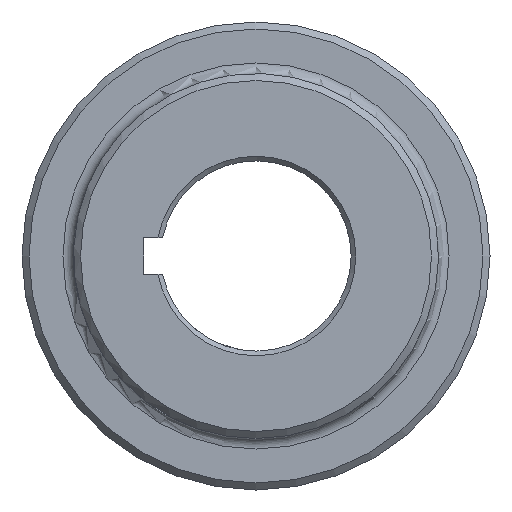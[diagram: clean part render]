
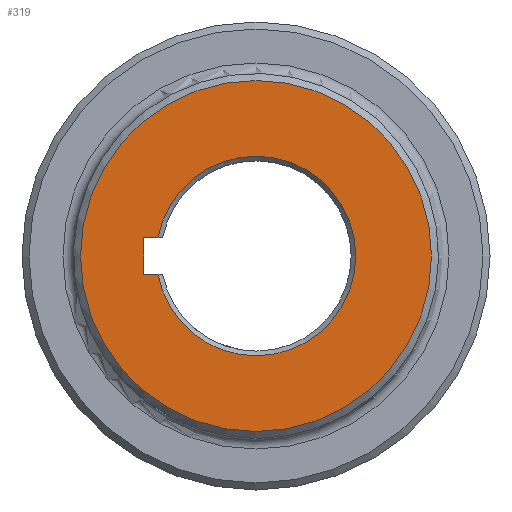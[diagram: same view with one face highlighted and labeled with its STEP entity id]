
A CAD part, left-side view. The second image highlights one B-rep face of the part: STEP entity #319.
In plain terms, the highlighted planar face has unit normal (-1, 0, 0).
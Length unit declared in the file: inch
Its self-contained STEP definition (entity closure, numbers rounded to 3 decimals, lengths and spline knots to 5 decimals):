
#174 = CARTESIAN_POINT ( 'NONE',  ( 0., 0.95825, -0.156 ) ) ;
#175 = EDGE_CURVE ( 'NONE', #1938, #394, #601, .T. ) ;
#210 = VERTEX_POINT ( 'NONE', #2335 ) ;
#220 = CARTESIAN_POINT ( 'NONE',  ( 0., 0., -1.5 ) ) ;
#285 = DIRECTION ( 'NONE',  ( 0., 0., -1. ) ) ;
#300 = CARTESIAN_POINT ( 'NONE',  ( 0., 0.95825, -0.156 ) ) ;
#319 = ADVANCED_FACE ( 'NONE', ( #1949, #1400 ), #422, .F. ) ;
#332 = ORIENTED_EDGE ( 'NONE', *, *, #2239, .T. ) ;
#387 = CARTESIAN_POINT ( 'NONE',  ( 0., 0., -0.156 ) ) ;
#394 = VERTEX_POINT ( 'NONE', #2294 ) ;
#422 = PLANE ( 'NONE',  #1289 ) ;
#442 = DIRECTION ( 'NONE',  ( 0., 1., 0. ) ) ;
#451 = VERTEX_POINT ( 'NONE', #1781 ) ;
#481 = EDGE_CURVE ( 'NONE', #210, #1938, #500, .T. ) ;
#500 = LINE ( 'NONE', #300, #2293 ) ;
#521 = EDGE_LOOP ( 'NONE', ( #1418, #332, #1707, #2075 ) ) ;
#590 = VECTOR ( 'NONE', #2246, 39.37008 ) ;
#601 = LINE ( 'NONE', #387, #590 ) ;
#635 = CARTESIAN_POINT ( 'NONE',  ( 0., 0., 0. ) ) ;
#931 = AXIS2_PLACEMENT_3D ( 'NONE', #2017, #1664, #285 ) ;
#1006 = CIRCLE ( 'NONE', #2435, 0.85275 ) ;
#1024 = DIRECTION ( 'NONE',  ( 1., 0., 0. ) ) ;
#1127 = EDGE_CURVE ( 'NONE', #451, #210, #2408, .T. ) ;
#1225 = DIRECTION ( 'NONE',  ( 0., 0., -1. ) ) ;
#1289 = AXIS2_PLACEMENT_3D ( 'NONE', #635, #2413, #2180 ) ;
#1400 = FACE_BOUND ( 'NONE', #521, .T. ) ;
#1418 = ORIENTED_EDGE ( 'NONE', *, *, #1127, .F. ) ;
#1460 = DIRECTION ( 'NONE',  ( 0., 0., -1. ) ) ;
#1664 = DIRECTION ( 'NONE',  ( -1., 0., 0. ) ) ;
#1690 = CARTESIAN_POINT ( 'NONE',  ( 0., 0., 0.156 ) ) ;
#1695 = CARTESIAN_POINT ( 'NONE',  ( 0., 0., 0. ) ) ;
#1701 = EDGE_LOOP ( 'NONE', ( #2099 ) ) ;
#1707 = ORIENTED_EDGE ( 'NONE', *, *, #175, .F. ) ;
#1781 = CARTESIAN_POINT ( 'NONE',  ( 0., 0.83836, 0.156 ) ) ;
#1930 = VECTOR ( 'NONE', #442, 39.37008 ) ;
#1938 = VERTEX_POINT ( 'NONE', #174 ) ;
#1942 = VERTEX_POINT ( 'NONE', #220 ) ;
#1949 = FACE_OUTER_BOUND ( 'NONE', #1701, .T. ) ;
#2017 = CARTESIAN_POINT ( 'NONE',  ( 0., 0., 0. ) ) ;
#2075 = ORIENTED_EDGE ( 'NONE', *, *, #481, .F. ) ;
#2099 = ORIENTED_EDGE ( 'NONE', *, *, #2412, .T. ) ;
#2180 = DIRECTION ( 'NONE',  ( 0., 0., -1. ) ) ;
#2239 = EDGE_CURVE ( 'NONE', #451, #394, #1006, .T. ) ;
#2246 = DIRECTION ( 'NONE',  ( 0., -1., 0. ) ) ;
#2293 = VECTOR ( 'NONE', #1225, 39.37008 ) ;
#2294 = CARTESIAN_POINT ( 'NONE',  ( 0., 0.83836, -0.156 ) ) ;
#2335 = CARTESIAN_POINT ( 'NONE',  ( 0., 0.95825, 0.156 ) ) ;
#2379 = CIRCLE ( 'NONE', #931, 1.5 ) ;
#2408 = LINE ( 'NONE', #1690, #1930 ) ;
#2412 = EDGE_CURVE ( 'NONE', #1942, #1942, #2379, .T. ) ;
#2413 = DIRECTION ( 'NONE',  ( 1., 0., 0. ) ) ;
#2435 = AXIS2_PLACEMENT_3D ( 'NONE', #1695, #1024, #1460 ) ;
